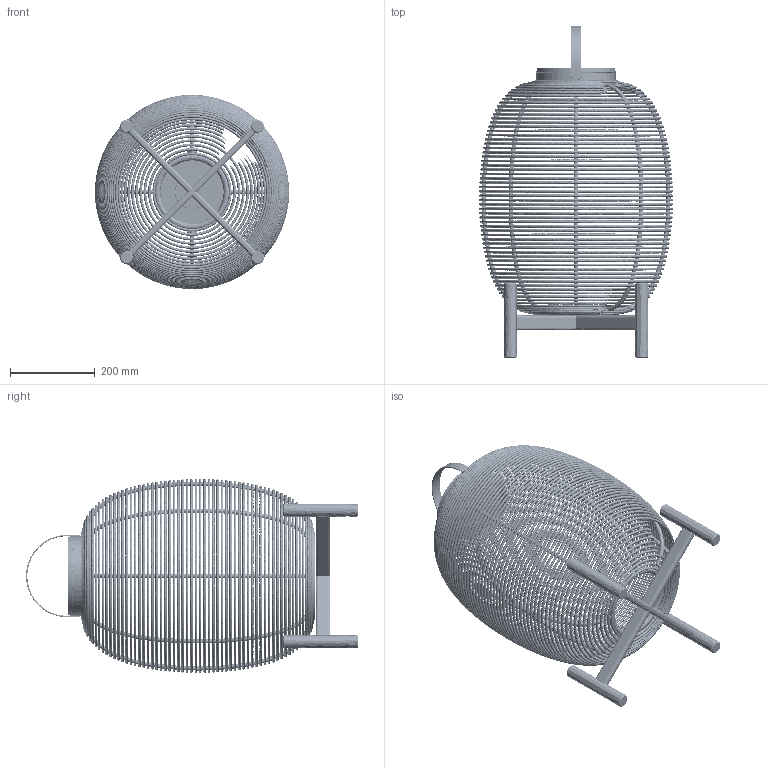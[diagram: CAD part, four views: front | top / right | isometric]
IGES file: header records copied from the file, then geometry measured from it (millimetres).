
Global section: file name: tika lantern teak base; native system: unknown; preprocessor: unknown; author: unknown; organization: unknown; date: 20200120.160318; units: millimetre
Bounding box: 457.69 x 782.33 x 457.68 mm (x, y, z)
Volume: 4603751.3 mm3; surface area: 2481259.9 mm2
Topology: 62 solids, 62 shells, 400 faces, 2031 edges, 1592 vertices
Faces by surface type: bspline 388, revolution 12
